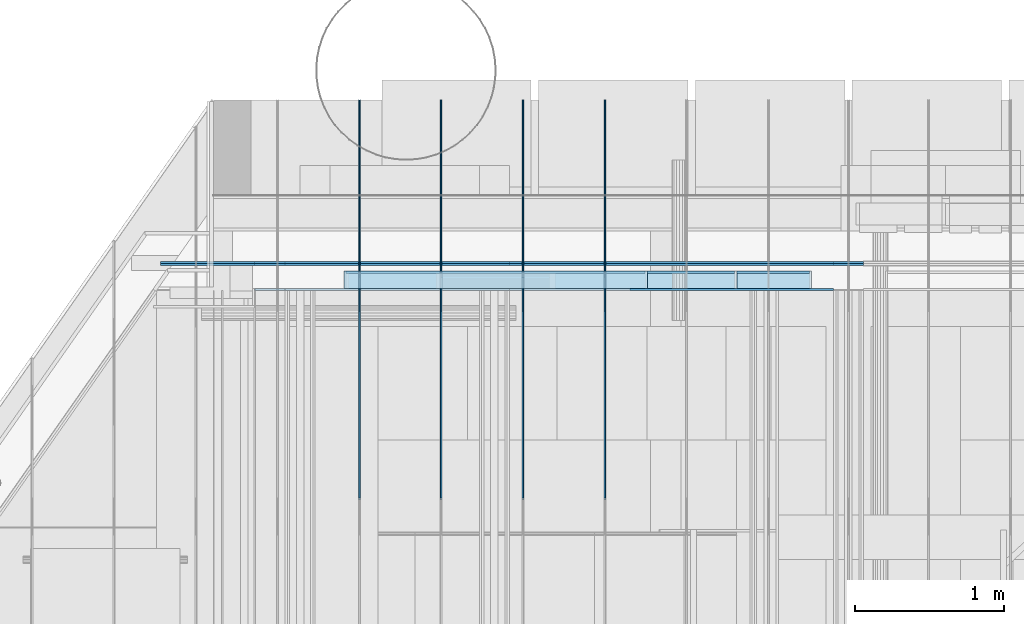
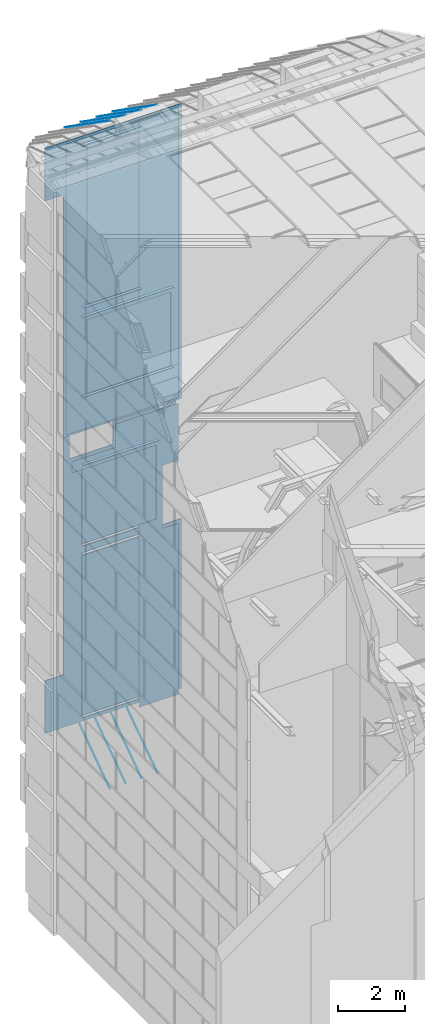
# One storey, part 276 of 583: 27 slabs.
"""IFC2X3 building model written with IfcOpenShell, lengths in metres."""

from ifc_helpers import new_model, entity, si_unit, converted_unit, derived_unit, money_unit, direction, frame, origin_with_axes, place, context, subcontext, project, spatial, faceted_brep, material, type_object, element, save


model = new_model("IFC2X3")

# Units and contexts
model_context = context("Model", 3, precision=1e-05, world=origin_with_axes(), true_north=direction((0.0, 1.0)))
body_context = subcontext(model_context, "Body", "Model", "MODEL_VIEW", scale=1.0)
ifc_project = project(units=[si_unit("LENGTHUNIT", "METRE"), si_unit("AREAUNIT", "SQUARE_METRE"), si_unit("VOLUMEUNIT", "CUBIC_METRE"), si_unit("ABSORBEDDOSEUNIT", "GRAY"), si_unit("AMOUNTOFSUBSTANCEUNIT", "MOLE"), si_unit("DOSEEQUIVALENTUNIT", "SIEVERT"), si_unit("ELECTRICCAPACITANCEUNIT", "FARAD"), si_unit("ELECTRICCHARGEUNIT", "COULOMB"), si_unit("ELECTRICCONDUCTANCEUNIT", "SIEMENS"), si_unit("ELECTRICCURRENTUNIT", "AMPERE"), si_unit("ELECTRICRESISTANCEUNIT", "OHM"), si_unit("ELECTRICVOLTAGEUNIT", "VOLT"), si_unit("ENERGYUNIT", "JOULE"), si_unit("FORCEUNIT", "NEWTON"), si_unit("FREQUENCYUNIT", "HERTZ"), si_unit("ILLUMINANCEUNIT", "LUX"), si_unit("INDUCTANCEUNIT", "HENRY"), si_unit("LUMINOUSFLUXUNIT", "LUMEN"), si_unit("LUMINOUSINTENSITYUNIT", "CANDELA"), si_unit("MAGNETICFLUXDENSITYUNIT", "TESLA"), si_unit("MAGNETICFLUXUNIT", "WEBER"), si_unit("MASSUNIT", "GRAM"), converted_unit("PLANEANGLEUNIT", "degree", entity("IfcReal", 0.0174532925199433), si_unit("PLANEANGLEUNIT", "RADIAN"), dimensions=[0, 0, 0, 0, 0, 0, 0]), si_unit("POWERUNIT", "WATT"), si_unit("PRESSUREUNIT", "PASCAL"), si_unit("RADIOACTIVITYUNIT", "BECQUEREL"), si_unit("SOLIDANGLEUNIT", "STERADIAN"), si_unit("THERMODYNAMICTEMPERATUREUNIT", "KELVIN"), si_unit("TIMEUNIT", "SECOND"), derived_unit("ACCELERATIONUNIT", [(si_unit("LENGTHUNIT", "METRE"), 1), (si_unit("TIMEUNIT", "SECOND"), -2)]), derived_unit("ANGULARVELOCITYUNIT", [(converted_unit("PLANEANGLEUNIT", "degree", entity("IfcReal", 0.0174532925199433), si_unit("PLANEANGLEUNIT", "RADIAN"), dimensions=[0, 0, 0, 0, 0, 0, 0]), 1), (si_unit("TIMEUNIT", "SECOND"), -1)]), derived_unit("CURVATUREUNIT", [(converted_unit("PLANEANGLEUNIT", "degree", entity("IfcReal", 0.0174532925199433), si_unit("PLANEANGLEUNIT", "RADIAN"), dimensions=[0, 0, 0, 0, 0, 0, 0]), 1), (si_unit("LENGTHUNIT", "METRE"), -1)]), derived_unit("DYNAMICVISCOSITYUNIT", [(si_unit("PRESSUREUNIT", "PASCAL"), 1), (si_unit("TIMEUNIT", "SECOND"), 1)]), derived_unit("HEATFLUXDENSITYUNIT", [(si_unit("POWERUNIT", "WATT"), 1), (si_unit("LENGTHUNIT", "METRE"), -2)]), derived_unit("HEATINGVALUEUNIT", [(si_unit("ENERGYUNIT", "JOULE"), 1), (si_unit("MASSUNIT", "GRAM"), -1)]), derived_unit("INTEGERCOUNTRATEUNIT", [(si_unit("TIMEUNIT", "SECOND"), -1)]), derived_unit("IONCONCENTRATIONUNIT", [(si_unit("MASSUNIT", "GRAM"), 1), (si_unit("VOLUMEUNIT", "CUBIC_METRE"), -1)]), derived_unit("ISOTHERMALMOISTURECAPACITYUNIT", [(si_unit("VOLUMEUNIT", "CUBIC_METRE"), 1), (si_unit("MASSUNIT", "GRAM"), -1)]), derived_unit("KINEMATICVISCOSITYUNIT", [(si_unit("AREAUNIT", "SQUARE_METRE"), 1), (si_unit("TIMEUNIT", "SECOND"), -1)]), derived_unit("LINEARFORCEUNIT", [(si_unit("FORCEUNIT", "NEWTON"), 1), (si_unit("LENGTHUNIT", "METRE"), -1)]), derived_unit("LINEARMOMENTUNIT", [(si_unit("FORCEUNIT", "NEWTON"), 1), (si_unit("LENGTHUNIT", "METRE"), -1)]), derived_unit("LINEARSTIFFNESSUNIT", [(si_unit("FORCEUNIT", "NEWTON"), 1), (si_unit("LENGTHUNIT", "METRE"), -1)]), derived_unit("LINEARVELOCITYUNIT", [(si_unit("LENGTHUNIT", "METRE"), 1), (si_unit("TIMEUNIT", "SECOND"), -1)]), derived_unit("LUMINOUSINTENSITYDISTRIBUTIONUNIT", [(si_unit("LUMINOUSINTENSITYUNIT", "CANDELA"), 1), (si_unit("LUMINOUSFLUXUNIT", "LUMEN"), -1)]), derived_unit("MASSDENSITYUNIT", [(si_unit("MASSUNIT", "GRAM"), 1), (si_unit("VOLUMEUNIT", "CUBIC_METRE"), -1)]), derived_unit("MASSFLOWRATEUNIT", [(si_unit("MASSUNIT", "GRAM"), 1), (si_unit("TIMEUNIT", "SECOND"), -1)]), derived_unit("MASSPERLENGTHUNIT", [(si_unit("MASSUNIT", "GRAM"), 1), (si_unit("LENGTHUNIT", "METRE"), -1)]), derived_unit("MODULUSOFELASTICITYUNIT", [(si_unit("FORCEUNIT", "NEWTON"), 1), (si_unit("AREAUNIT", "SQUARE_METRE"), -1)]), derived_unit("MODULUSOFLINEARSUBGRADEREACTIONUNIT", [(si_unit("FORCEUNIT", "NEWTON"), 1), (si_unit("LENGTHUNIT", "METRE"), -2)]), derived_unit("MODULUSOFROTATIONALSUBGRADEREACTIONUNIT", [(si_unit("FORCEUNIT", "NEWTON"), 1), (si_unit("LENGTHUNIT", "METRE"), 1)]), derived_unit("MODULUSOFSUBGRADEREACTIONUNIT", [(si_unit("FORCEUNIT", "NEWTON"), 1), (si_unit("VOLUMEUNIT", "CUBIC_METRE"), -1)]), derived_unit("MOISTUREDIFFUSIVITYUNIT", [(si_unit("VOLUMEUNIT", "CUBIC_METRE"), 1), (si_unit("TIMEUNIT", "SECOND"), -1)]), derived_unit("MOLECULARWEIGHTUNIT", [(si_unit("MASSUNIT", "GRAM"), 1), (si_unit("AMOUNTOFSUBSTANCEUNIT", "MOLE"), -1)]), derived_unit("PLANARFORCEUNIT", [(si_unit("FORCEUNIT", "NEWTON"), 1), (si_unit("LENGTHUNIT", "METRE"), -2)]), derived_unit("ROTATIONALFREQUENCYUNIT", [(si_unit("TIMEUNIT", "SECOND"), -1)]), derived_unit("ROTATIONALMASSUNIT", [(si_unit("MASSUNIT", "GRAM"), 1), (si_unit("LENGTHUNIT", "METRE"), 2)]), derived_unit("ROTATIONALSTIFFNESSUNIT", [(si_unit("FORCEUNIT", "NEWTON"), 1), (si_unit("LENGTHUNIT", "METRE"), 1), (converted_unit("PLANEANGLEUNIT", "degree", entity("IfcReal", 0.0174532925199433), si_unit("PLANEANGLEUNIT", "RADIAN"), dimensions=[0, 0, 0, 0, 0, 0, 0]), -1)]), derived_unit("SECTIONAREAINTEGRALUNIT", [(si_unit("LENGTHUNIT", "METRE"), 5)]), derived_unit("SECTIONMODULUSUNIT", [(si_unit("LENGTHUNIT", "METRE"), 3)]), derived_unit("SHEARMODULUSUNIT", [(si_unit("FORCEUNIT", "NEWTON"), 1), (si_unit("AREAUNIT", "SQUARE_METRE"), -1)]), derived_unit("SOUNDPOWERUNIT", [(si_unit("ENERGYUNIT", "JOULE"), 1), (si_unit("TIMEUNIT", "SECOND"), -1)]), derived_unit("SPECIFICHEATCAPACITYUNIT", [(si_unit("FORCEUNIT", "NEWTON"), 1), (si_unit("MASSUNIT", "GRAM"), -1), (si_unit("THERMODYNAMICTEMPERATUREUNIT", "KELVIN"), -1)]), derived_unit("TEMPERATUREGRADIENTUNIT", [(si_unit("THERMODYNAMICTEMPERATUREUNIT", "KELVIN"), 1), (si_unit("LENGTHUNIT", "METRE"), -1)]), derived_unit("THERMALADMITTANCEUNIT", [(si_unit("POWERUNIT", "WATT"), 1), (si_unit("AREAUNIT", "SQUARE_METRE"), -1), (si_unit("THERMODYNAMICTEMPERATUREUNIT", "KELVIN"), -1)]), derived_unit("THERMALCONDUCTANCEUNIT", [(si_unit("POWERUNIT", "WATT"), 1), (si_unit("LENGTHUNIT", "METRE"), -1), (si_unit("THERMODYNAMICTEMPERATUREUNIT", "KELVIN"), -1)]), derived_unit("THERMALEXPANSIONCOEFFICIENTUNIT", [(si_unit("THERMODYNAMICTEMPERATUREUNIT", "KELVIN"), -1)]), derived_unit("THERMALRESISTANCEUNIT", [(si_unit("AREAUNIT", "SQUARE_METRE"), 1), (si_unit("POWERUNIT", "WATT"), -1)]), derived_unit("THERMALTRANSMITTANCEUNIT", [(si_unit("POWERUNIT", "WATT"), 1), (si_unit("AREAUNIT", "SQUARE_METRE"), -1), (si_unit("THERMODYNAMICTEMPERATUREUNIT", "KELVIN"), -1)]), derived_unit("TORQUEUNIT", [(si_unit("FORCEUNIT", "NEWTON"), 1), (si_unit("LENGTHUNIT", "METRE"), 1)]), derived_unit("VAPORPERMEABILITYUNIT", [(si_unit("MASSUNIT", "GRAM"), 1), (si_unit("TIMEUNIT", "SECOND"), -1)]), derived_unit("VOLUMETRICFLOWRATEUNIT", [(si_unit("VOLUMEUNIT", "CUBIC_METRE"), 1), (si_unit("TIMEUNIT", "SECOND"), -1)]), derived_unit("WARPINGCONSTANTUNIT", [(si_unit("LENGTHUNIT", "METRE"), 6)]), derived_unit("WARPINGMOMENTUNIT", [(si_unit("FORCEUNIT", "NEWTON"), 1), (si_unit("LENGTHUNIT", "METRE"), 2)]), money_unit("GBP")], contexts=[model_context])

# Site, building, storey
site_placement = place(None, origin_with_axes())
site = spatial("IfcSite", under=ifc_project, at=site_placement, Name="Site", CompositionType="ELEMENT")
building_placement = place(site_placement, origin_with_axes())
building = spatial("IfcBuilding", under=site, at=building_placement, Name="Building01", CompositionType="ELEMENT")
storey_placement = place(building_placement, frame((0.0, 0.0, 20.78), z_axis=(0.0, 0.0, 1.0), x_axis=(1.0, 0.0, 0.0)))
storey = spatial("IfcBuildingStorey", under=building, at=storey_placement, Name="RL", CompositionType="ELEMENT", Elevation=20.78)

# Slabs
ifc_material_1 = material(Name="A_BSUK_CeilingSoffitFinishes_Suspended")
slab_type = type_object("IfcSlabType", Name="A-FloorsSlabs A_BSUK_Slabs", PredefinedType="FLOOR")
placement = place(storey_placement, frame((0.0, 0.0, -20.78), z_axis=(0.0, 0.0, 1.0), x_axis=(1.0, 0.0, 0.0)))
element("IfcSlab", 1, at=placement, inside=storey, type_object=slab_type, material=ifc_material_1, Name="A-FloorsSlabs A_BSUK_Slabs", ObjectType="CompoundSlabLeaf", context=body_context, shape_type="Brep", body=[
    faceted_brep([(6.0884, 20.295, 18.0), (6.0884, 20.31, 18.0), (6.0884, 20.31, 23.9), (6.0884, 20.295, 23.9), (4.0884, 20.295, 18.0), (4.0884, 20.31, 18.0), (4.0884, 20.295, 23.9), (4.0884, 20.31, 23.9)], [[[0, 1, 2, 3]], [[4, 5, 1, 0]], [[6, 7, 5, 4]], [[3, 2, 7, 6]], [[1, 5, 7, 2]], [[3, 6, 4, 0]]]),
])
element("IfcSlab", 2, at=placement, inside=storey, type_object=slab_type, material=ifc_material_1, Name="A-FloorsSlabs A_BSUK_Slabs", ObjectType="CompoundSlabLeaf", context=body_context, shape_type="Brep", body=[
    faceted_brep([(6.0884, 20.295, 3.1), (6.0884, 20.31, 3.1), (6.0884, 20.31, 9.0), (6.0884, 20.295, 9.0), (4.0884, 20.295, 3.1), (4.0884, 20.31, 3.1), (4.0884, 20.295, 9.0), (4.0884, 20.31, 9.0)], [[[0, 1, 2, 3]], [[4, 5, 1, 0]], [[6, 7, 5, 4]], [[3, 2, 7, 6]], [[1, 5, 7, 2]], [[3, 6, 4, 0]]]),
])
element("IfcSlab", 3, at=placement, inside=storey, type_object=slab_type, material=ifc_material_1, Name="A-FloorsSlabs A_BSUK_Slabs", ObjectType="CompoundSlabLeaf", context=body_context, shape_type="Brep", body=[
    faceted_brep([(7.1884, 20.295, 14.75), (7.1884, 20.31, 14.75), (7.1884, 20.31, 17.65), (7.1884, 20.295, 17.65), (4.0884, 20.295, 14.75), (4.0884, 20.31, 14.75), (4.0884, 20.295, 17.65), (4.0884, 20.31, 17.65)], [[[0, 1, 2, 3]], [[4, 5, 1, 0]], [[6, 7, 5, 4]], [[3, 2, 7, 6]], [[1, 5, 7, 2]], [[3, 6, 4, 0]]]),
])
element("IfcSlab", 4, at=placement, inside=storey, type_object=slab_type, material=ifc_material_1, Name="A-FloorsSlabs A_BSUK_Slabs", ObjectType="CompoundSlabLeaf", context=body_context, shape_type="Brep", body=[
    faceted_brep([(6.6884, 20.295, 9.35), (6.6884, 20.31, 9.35), (6.6884, 20.31, 12.25), (6.6884, 20.295, 12.25), (4.0884, 20.295, 9.35), (4.0884, 20.31, 9.35), (4.0884, 20.295, 12.25), (4.0884, 20.31, 12.25)], [[[0, 1, 2, 3]], [[4, 5, 1, 0]], [[6, 7, 5, 4]], [[3, 2, 7, 6]], [[1, 5, 7, 2]], [[3, 6, 4, 0]]]),
])
element("IfcSlab", 5, at=placement, inside=storey, type_object=slab_type, material=ifc_material_1, Name="A-FloorsSlabs A_BSUK_Slabs", ObjectType="CompoundSlabLeaf", context=body_context, shape_type="Brep", body=[
    faceted_brep([(7.349939, 20.18, 11.323), (7.349939, 20.195, 11.323), (7.349939, 20.195, 13.4), (7.349939, 20.18, 13.4), (6.789769, 20.18, 11.323), (6.789769, 20.195, 11.323), (6.789769, 20.18, 9.03), (6.789769, 20.195, 9.03), (7.35, 20.18, 9.03), (7.35, 20.195, 9.03), (7.35, 20.18, 7.195077), (7.35, 20.195, 7.195077), (7.349939, 20.18, 7.195077), (7.349939, 20.195, 7.195077), (7.349939, 20.18, 3.915111), (7.349939, 20.195, 3.915111), (7.349939, 20.18, 2.798126), (7.349939, 20.195, 2.798126), (5.9884, 20.18, 2.798126), (5.9884, 20.195, 2.798126), (5.9884, 20.18, 9.45), (5.9884, 20.195, 9.45), (6.5884, 20.18, 9.45), (6.5884, 20.195, 9.45), (6.5884, 20.18, 12.15), (6.5884, 20.195, 12.15), (3.68, 20.18, 12.15), (3.68, 20.195, 12.15), (3.68, 20.18, 12.55), (3.68, 20.195, 12.55), (5.18, 20.18, 12.55), (5.18, 20.195, 12.55), (5.18, 20.18, 13.4), (5.18, 20.195, 13.4)], [[[0, 1, 2, 3]], [[4, 5, 1, 0]], [[6, 7, 5, 4]], [[8, 9, 7, 6]], [[10, 11, 9, 8]], [[12, 13, 11, 10]], [[14, 15, 13, 12]], [[16, 17, 15, 14]], [[18, 19, 17, 16]], [[20, 21, 19, 18]], [[22, 23, 21, 20]], [[24, 25, 23, 22]], [[26, 27, 25, 24]], [[28, 29, 27, 26]], [[30, 31, 29, 28]], [[32, 33, 31, 30]], [[3, 2, 33, 32]], [[1, 5, 7, 9, 11, 13, 15, 17, 19, 21, 23, 25, 27, 29, 31, 33, 2]], [[3, 32, 30, 28, 26, 24, 22, 20, 18, 16, 14, 12, 10, 8, 6, 4, 0]]]),
])
element("IfcSlab", 6, at=placement, inside=storey, type_object=slab_type, material=ifc_material_1, Name="A-FloorsSlabs A_BSUK_Slabs", ObjectType="CompoundSlabLeaf", context=body_context, shape_type="Brep", body=[
    faceted_brep([(3.474708, 20.18, 24.181874), (3.474708, 20.195, 24.181874), (3.474708, 20.195, 22.239976), (3.474708, 20.18, 22.239976), (5.9884, 20.18, 24.181874), (5.9884, 20.195, 24.181874), (5.9884, 20.18, 23.8), (5.9884, 20.195, 23.8), (5.8384, 20.18, 23.8), (5.8384, 20.195, 23.8), (4.1884, 20.18, 23.8), (4.1884, 20.195, 23.8), (4.1884, 20.18, 18.1), (4.1884, 20.195, 18.1), (5.9884, 20.18, 18.1), (5.9884, 20.195, 18.1), (5.9884, 20.18, 17.55), (5.9884, 20.195, 17.55), (4.1884, 20.18, 17.55), (4.1884, 20.195, 17.55), (4.1884, 20.18, 14.85), (4.1884, 20.195, 14.85), (7.350061, 20.18, 14.85), (7.350061, 20.195, 14.85), (7.350061, 20.18, 13.6), (7.350061, 20.195, 13.6), (3.474708, 20.18, 13.6), (3.474708, 20.195, 13.6)], [[[0, 1, 2, 3]], [[4, 5, 1, 0]], [[6, 7, 5, 4]], [[8, 9, 7, 6]], [[10, 11, 9, 8]], [[12, 13, 11, 10]], [[14, 15, 13, 12]], [[16, 17, 15, 14]], [[18, 19, 17, 16]], [[20, 21, 19, 18]], [[22, 23, 21, 20]], [[24, 25, 23, 22]], [[26, 27, 25, 24]], [[3, 2, 27, 26]], [[1, 5, 7, 9, 11, 13, 15, 17, 19, 21, 23, 25, 27, 2]], [[3, 26, 24, 22, 20, 18, 16, 14, 12, 10, 8, 6, 4, 0]]]),
])
element("IfcSlab", 7, at=placement, inside=storey, type_object=slab_type, material=ifc_material_1, Name="A-FloorsSlabs A_BSUK_Slabs", ObjectType="CompoundSlabLeaf", context=body_context, shape_type="Brep", body=[
    faceted_brep([(5.9884, 20.18, 24.181874), (5.9884, 20.195, 24.181874), (5.9884, 20.195, 17.55), (5.9884, 20.18, 17.55), (7.350085, 20.18, 24.181874), (7.350085, 20.195, 24.181874), (7.350085, 20.18, 21.268507), (7.350085, 20.195, 21.268507), (7.350061, 20.18, 21.268507), (7.350061, 20.195, 21.268507), (7.350061, 20.18, 18.289976), (7.350061, 20.195, 18.289976), (7.350061, 20.18, 14.85), (7.350061, 20.195, 14.85), (7.0884, 20.18, 14.85), (7.0884, 20.195, 14.85), (7.0884, 20.18, 17.55), (7.0884, 20.195, 17.55)], [[[0, 1, 2, 3]], [[4, 5, 1, 0]], [[6, 7, 5, 4]], [[8, 9, 7, 6]], [[10, 11, 9, 8]], [[12, 13, 11, 10]], [[14, 15, 13, 12]], [[16, 17, 15, 14]], [[3, 2, 17, 16]], [[1, 5, 7, 9, 11, 13, 15, 17, 2]], [[3, 16, 14, 12, 10, 8, 6, 4, 0]]]),
])
element("IfcSlab", 8, at=placement, inside=storey, type_object=slab_type, material=ifc_material_1, Name="A-FloorsSlabs A_BSUK_Slabs", ObjectType="CompoundSlabLeaf", context=body_context, shape_type="Brep", body=[
    faceted_brep([(6.1034, 20.195, 3.1), (6.1034, 20.195, 3.085), (6.1034, 20.31, 3.085), (6.1034, 20.31, 3.1), (4.0734, 20.195, 3.1), (4.0734, 20.195, 3.085), (4.0734, 20.31, 3.1), (4.0734, 20.31, 3.085)], [[[0, 1, 2, 3]], [[4, 5, 1, 0]], [[6, 7, 5, 4]], [[3, 2, 7, 6]], [[1, 5, 7, 2]], [[3, 6, 4, 0]]]),
])
element("IfcSlab", 9, at=placement, inside=storey, type_object=slab_type, material=ifc_material_1, Name="A-FloorsSlabs A_BSUK_Slabs", ObjectType="CompoundSlabLeaf", context=body_context, shape_type="Brep", body=[
    faceted_brep([(6.1034, 20.195, 9.015), (6.1034, 20.195, 9.0), (6.1034, 20.31, 9.0), (6.1034, 20.31, 9.015), (4.0734, 20.195, 9.015), (4.0734, 20.195, 9.0), (4.0734, 20.31, 9.015), (4.0734, 20.31, 9.0)], [[[0, 1, 2, 3]], [[4, 5, 1, 0]], [[6, 7, 5, 4]], [[3, 2, 7, 6]], [[1, 5, 7, 2]], [[3, 6, 4, 0]]]),
])
element("IfcSlab", 10, at=placement, inside=storey, type_object=slab_type, material=ifc_material_1, Name="A-FloorsSlabs A_BSUK_Slabs", ObjectType="CompoundSlabLeaf", context=body_context, shape_type="Brep", body=[
    faceted_brep([(6.1034, 20.195, 18.0), (6.1034, 20.195, 17.985), (6.1034, 20.31, 17.985), (6.1034, 20.31, 18.0), (4.0734, 20.195, 18.0), (4.0734, 20.195, 17.985), (4.0734, 20.31, 18.0), (4.0734, 20.31, 17.985)], [[[0, 1, 2, 3]], [[4, 5, 1, 0]], [[6, 7, 5, 4]], [[3, 2, 7, 6]], [[1, 5, 7, 2]], [[3, 6, 4, 0]]]),
])
element("IfcSlab", 11, at=placement, inside=storey, type_object=slab_type, material=ifc_material_1, Name="A-FloorsSlabs A_BSUK_Slabs", ObjectType="CompoundSlabLeaf", context=body_context, shape_type="Brep", body=[
    faceted_brep([(7.2034, 20.195, 14.75), (7.2034, 20.195, 14.735), (7.2034, 20.31, 14.735), (7.2034, 20.31, 14.75), (4.0734, 20.195, 14.75), (4.0734, 20.195, 14.735), (4.0734, 20.31, 14.75), (4.0734, 20.31, 14.735)], [[[0, 1, 2, 3]], [[4, 5, 1, 0]], [[6, 7, 5, 4]], [[3, 2, 7, 6]], [[1, 5, 7, 2]], [[3, 6, 4, 0]]]),
])
element("IfcSlab", 12, at=placement, inside=storey, type_object=slab_type, material=ifc_material_1, Name="A-FloorsSlabs A_BSUK_Slabs", ObjectType="CompoundSlabLeaf", context=body_context, shape_type="Brep", body=[
    faceted_brep([(7.2034, 20.195, 17.665), (7.2034, 20.195, 17.65), (7.2034, 20.31, 17.65), (7.2034, 20.31, 17.665), (4.0734, 20.195, 17.665), (4.0734, 20.195, 17.65), (4.0734, 20.31, 17.665), (4.0734, 20.31, 17.65)], [[[0, 1, 2, 3]], [[4, 5, 1, 0]], [[6, 7, 5, 4]], [[3, 2, 7, 6]], [[1, 5, 7, 2]], [[3, 6, 4, 0]]]),
])
element("IfcSlab", 13, at=placement, inside=storey, type_object=slab_type, material=ifc_material_1, Name="A-FloorsSlabs A_BSUK_Slabs", ObjectType="CompoundSlabLeaf", context=body_context, shape_type="Brep", body=[
    faceted_brep([(6.1034, 20.195, 23.915), (6.1034, 20.195, 23.9), (6.1034, 20.31, 23.9), (6.1034, 20.31, 23.915), (4.0734, 20.195, 23.915), (4.0734, 20.195, 23.9), (4.0734, 20.31, 23.915), (4.0734, 20.31, 23.9)], [[[0, 1, 2, 3]], [[4, 5, 1, 0]], [[6, 7, 5, 4]], [[3, 2, 7, 6]], [[1, 5, 7, 2]], [[3, 6, 4, 0]]]),
])
element("IfcSlab", 14, at=placement, inside=storey, type_object=slab_type, material=ifc_material_1, Name="A-FloorsSlabs A_BSUK_Slabs", ObjectType="CompoundSlabLeaf", context=body_context, shape_type="Brep", body=[
    faceted_brep([(6.7034, 20.195, 9.35), (6.7034, 20.195, 9.335), (6.7034, 20.31, 9.335), (6.7034, 20.31, 9.35), (4.0734, 20.195, 9.35), (4.0734, 20.195, 9.335), (4.0734, 20.31, 9.35), (4.0734, 20.31, 9.335)], [[[0, 1, 2, 3]], [[4, 5, 1, 0]], [[6, 7, 5, 4]], [[3, 2, 7, 6]], [[1, 5, 7, 2]], [[3, 6, 4, 0]]]),
])
element("IfcSlab", 15, at=placement, inside=storey, type_object=slab_type, material=ifc_material_1, Name="A-FloorsSlabs A_BSUK_Slabs", ObjectType="CompoundSlabLeaf", context=body_context, shape_type="Brep", body=[
    faceted_brep([(6.7034, 20.195, 12.265), (6.7034, 20.195, 12.25), (6.7034, 20.31, 12.25), (6.7034, 20.31, 12.265), (4.0734, 20.195, 12.265), (4.0734, 20.195, 12.25), (4.0734, 20.31, 12.265), (4.0734, 20.31, 12.25)], [[[0, 1, 2, 3]], [[4, 5, 1, 0]], [[6, 7, 5, 4]], [[3, 2, 7, 6]], [[1, 5, 7, 2]], [[3, 6, 4, 0]]]),
])
element("IfcSlab", 16, at=placement, inside=storey, type_object=slab_type, material=ifc_material_1, Name="A-FloorsSlabs A_BSUK_Slabs", ObjectType="CompoundSlabLeaf", context=body_context, shape_type="Brep", body=[
    faceted_brep([(2.845811, 20.3468, 2.845596), (2.845811, 20.3618, 2.845596), (7.55, 20.3618, 2.845596), (7.55, 20.3468, 2.845596), (2.845811, 20.3468, 4.760024), (2.845811, 20.3618, 4.760024), (3.474708, 20.3468, 4.760024), (3.474708, 20.3618, 4.760024), (3.474708, 20.3468, 13.4), (3.474708, 20.3618, 13.4), (3.68, 20.3468, 13.4), (3.68, 20.3618, 13.4), (3.68, 20.3468, 12.55), (3.68, 20.3618, 12.55), (5.18, 20.3468, 12.55), (5.18, 20.3618, 12.55), (5.18, 20.3468, 13.4), (5.18, 20.3618, 13.4), (7.349939, 20.3468, 13.4), (7.349939, 20.3618, 13.4), (7.349939, 20.3468, 11.323), (7.349939, 20.3618, 11.323), (6.789769, 20.3468, 11.323), (6.789769, 20.3618, 11.323), (6.789769, 20.3468, 9.03), (6.789769, 20.3618, 9.03), (7.55, 20.3468, 9.03), (7.55, 20.3618, 9.03)], [[[0, 1, 2, 3]], [[4, 5, 1, 0]], [[6, 7, 5, 4]], [[8, 9, 7, 6]], [[10, 11, 9, 8]], [[12, 13, 11, 10]], [[14, 15, 13, 12]], [[16, 17, 15, 14]], [[18, 19, 17, 16]], [[20, 21, 19, 18]], [[22, 23, 21, 20]], [[24, 25, 23, 22]], [[26, 27, 25, 24]], [[3, 2, 27, 26]], [[1, 5, 7, 9, 11, 13, 15, 17, 19, 21, 23, 25, 27, 2]], [[3, 26, 24, 22, 20, 18, 16, 14, 12, 10, 8, 6, 4, 0]]]),
])
element("IfcSlab", 17, at=placement, inside=storey, type_object=slab_type, material=ifc_material_1, Name="A-FloorsSlabs A_BSUK_Slabs", ObjectType="CompoundSlabLeaf", context=body_context, shape_type="Brep", body=[
    faceted_brep([(7.549915, 20.3468, 24.154404), (7.549915, 20.3618, 24.154404), (2.845811, 20.3618, 24.154404), (2.845811, 20.3468, 24.154404), (7.549939, 20.3468, 13.4), (7.549939, 20.3618, 13.4), (3.474708, 20.3468, 13.4), (3.474708, 20.3618, 13.4), (3.474708, 20.3468, 22.239976), (3.474708, 20.3618, 22.239976), (2.845811, 20.3468, 22.239976), (2.845811, 20.3618, 22.239976)], [[[0, 1, 2, 3]], [[4, 5, 1, 0]], [[6, 7, 5, 4]], [[8, 9, 7, 6]], [[10, 11, 9, 8]], [[3, 2, 11, 10]], [[1, 5, 7, 9, 11, 2]], [[3, 10, 8, 6, 4, 0]]]),
])
element("IfcSlab", 18, at=placement, inside=storey, type_object=slab_type, material=ifc_material_1, Name="A-FloorsSlabs A_BSUK_Slabs", ObjectType="CompoundSlabLeaf", context=body_context, shape_type="Brep", body=[
    faceted_brep([(2.845811, 20.3618, 2.845596), (2.845811, 20.3768, 2.845596), (7.55, 20.3768, 2.845596), (7.55, 20.3618, 2.845596), (2.845811, 20.3618, 4.760024), (2.845811, 20.3768, 4.760024), (3.474708, 20.3618, 4.760024), (3.474708, 20.3768, 4.760024), (3.474708, 20.3618, 13.4), (3.474708, 20.3768, 13.4), (3.68, 20.3618, 13.4), (3.68, 20.3768, 13.4), (3.68, 20.3618, 12.55), (3.68, 20.3768, 12.55), (5.18, 20.3618, 12.55), (5.18, 20.3768, 12.55), (5.18, 20.3618, 13.4), (5.18, 20.3768, 13.4), (7.349939, 20.3618, 13.4), (7.349939, 20.3768, 13.4), (7.349939, 20.3618, 11.323), (7.349939, 20.3768, 11.323), (6.789769, 20.3618, 11.323), (6.789769, 20.3768, 11.323), (6.789769, 20.3618, 9.03), (6.789769, 20.3768, 9.03), (7.55, 20.3618, 9.03), (7.55, 20.3768, 9.03)], [[[0, 1, 2, 3]], [[4, 5, 1, 0]], [[6, 7, 5, 4]], [[8, 9, 7, 6]], [[10, 11, 9, 8]], [[12, 13, 11, 10]], [[14, 15, 13, 12]], [[16, 17, 15, 14]], [[18, 19, 17, 16]], [[20, 21, 19, 18]], [[22, 23, 21, 20]], [[24, 25, 23, 22]], [[26, 27, 25, 24]], [[3, 2, 27, 26]], [[1, 5, 7, 9, 11, 13, 15, 17, 19, 21, 23, 25, 27, 2]], [[3, 26, 24, 22, 20, 18, 16, 14, 12, 10, 8, 6, 4, 0]]]),
])
element("IfcSlab", 19, at=placement, inside=storey, type_object=slab_type, material=ifc_material_1, Name="A-FloorsSlabs A_BSUK_Slabs", ObjectType="CompoundSlabLeaf", context=body_context, shape_type="Brep", body=[
    faceted_brep([(7.549915, 20.3618, 24.154404), (7.549915, 20.3768, 24.154404), (2.845811, 20.3768, 24.154404), (2.845811, 20.3618, 24.154404), (7.549939, 20.3618, 13.4), (7.549939, 20.3768, 13.4), (3.474708, 20.3618, 13.4), (3.474708, 20.3768, 13.4), (3.474708, 20.3618, 22.239976), (3.474708, 20.3768, 22.239976), (2.845811, 20.3618, 22.239976), (2.845811, 20.3768, 22.239976)], [[[0, 1, 2, 3]], [[4, 5, 1, 0]], [[6, 7, 5, 4]], [[8, 9, 7, 6]], [[10, 11, 9, 8]], [[3, 2, 11, 10]], [[1, 5, 7, 9, 11, 2]], [[3, 10, 8, 6, 4, 0]]]),
])
ifc_material_2 = material(Name="A_BSUK_Roofs")
for number, where, z_axis, x_axis, name in (
    (20, (5.813975, 18.780461, -19.44574), (0.0, 1.0, 0.0), (0.0, 0.0, 1.0), "A-FloorsSlabs A_BSUK_Slabs"),
    (21, (5.266475, 18.780461, -19.44574), (0.0, 1.0, 0.0), (0.0, 0.0, 1.0), "A-FloorsSlabs A_BSUK_Slabs"),
    (22, (4.718975, 18.780461, -19.44574), (0.0, 1.0, 0.0), (0.0, 0.0, 1.0), "A-FloorsSlabs A_BSUK_Slabs"),
    (23, (4.171475, 18.780461, -19.44574), (0.0, 1.0, 0.0), (0.0, 0.0, 1.0), "A-FloorsSlabs A_BSUK_Slabs"),
):
    element("IfcSlab", number, at=place(storey_placement, frame(where, z_axis=z_axis, x_axis=x_axis)), inside=storey, type_object=slab_type, material=ifc_material_2, Name=name, ObjectType="A-FloorsSlabs A_BSUK_Slabs", context=body_context, shape_type="Brep", body=[
        faceted_brep([(1.86568, 0.0, 2.664467), (1.849297, 0.0, 2.675938), (-0.016383, 0.0, 0.011472), (0.0, 0.0, 0.0), (-0.016383, 0.01, 0.011472), (0.0, 0.01, 0.0), (1.849297, 0.01, 2.675938), (1.86568, 0.01, 2.664467)], [[[0, 1, 2, 3]], [[3, 2, 4, 5]], [[5, 4, 6, 7]], [[7, 6, 1, 0]], [[1, 6, 4, 2]], [[3, 5, 7, 0]]]),
    ])
element("IfcSlab", 24, at=placement, inside=storey, type_object=slab_type, material=ifc_material_2, Name="A-FloorsSlabs A_BSUK_Slabs", ObjectType="CompoundSlabLeaf", context=body_context, shape_type="Brep", body=[
    faceted_brep([(4.171475, 18.780461, 25.64574), (4.171475, 18.791933, 25.662123), (4.171475, 21.456399, 23.796444), (4.171475, 21.444928, 23.780061), (4.181475, 18.780461, 25.64574), (4.181475, 18.791933, 25.662123), (4.181475, 21.444928, 23.780061), (4.181475, 21.456399, 23.796444)], [[[0, 1, 2, 3]], [[4, 5, 1, 0]], [[6, 7, 5, 4]], [[3, 2, 7, 6]], [[1, 5, 7, 2]], [[3, 6, 4, 0]]]),
])
element("IfcSlab", 25, at=placement, inside=storey, type_object=slab_type, material=ifc_material_2, Name="A-FloorsSlabs A_BSUK_Slabs", ObjectType="CompoundSlabLeaf", context=body_context, shape_type="Brep", body=[
    faceted_brep([(4.718975, 18.780461, 25.64574), (4.718975, 18.791933, 25.662123), (4.718975, 21.456399, 23.796444), (4.718975, 21.444928, 23.780061), (4.728975, 18.780461, 25.64574), (4.728975, 18.791933, 25.662123), (4.728975, 21.444928, 23.780061), (4.728975, 21.456399, 23.796444)], [[[0, 1, 2, 3]], [[4, 5, 1, 0]], [[6, 7, 5, 4]], [[3, 2, 7, 6]], [[1, 5, 7, 2]], [[3, 6, 4, 0]]]),
])
element("IfcSlab", 26, at=placement, inside=storey, type_object=slab_type, material=ifc_material_2, Name="A-FloorsSlabs A_BSUK_Slabs", ObjectType="CompoundSlabLeaf", context=body_context, shape_type="Brep", body=[
    faceted_brep([(5.266475, 18.780461, 25.64574), (5.266475, 18.791933, 25.662123), (5.266475, 21.456399, 23.796444), (5.266475, 21.444928, 23.780061), (5.276475, 18.780461, 25.64574), (5.276475, 18.791933, 25.662123), (5.276475, 21.444928, 23.780061), (5.276475, 21.456399, 23.796444)], [[[0, 1, 2, 3]], [[4, 5, 1, 0]], [[6, 7, 5, 4]], [[3, 2, 7, 6]], [[1, 5, 7, 2]], [[3, 6, 4, 0]]]),
])
element("IfcSlab", 27, at=placement, inside=storey, type_object=slab_type, material=ifc_material_2, Name="A-FloorsSlabs A_BSUK_Slabs", ObjectType="CompoundSlabLeaf", context=body_context, shape_type="Brep", body=[
    faceted_brep([(5.813975, 18.780461, 25.64574), (5.813975, 18.791933, 25.662123), (5.813975, 21.456399, 23.796444), (5.813975, 21.444928, 23.780061), (5.823975, 18.780461, 25.64574), (5.823975, 18.791933, 25.662123), (5.823975, 21.444928, 23.780061), (5.823975, 21.456399, 23.796444)], [[[0, 1, 2, 3]], [[4, 5, 1, 0]], [[6, 7, 5, 4]], [[3, 2, 7, 6]], [[1, 5, 7, 2]], [[3, 6, 4, 0]]]),
])

save(model, "model.ifc")
